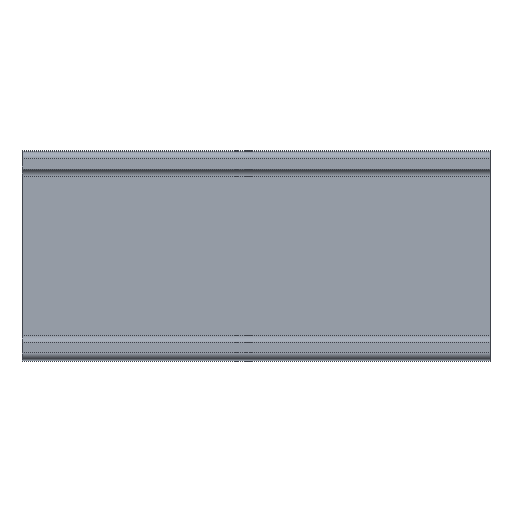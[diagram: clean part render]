
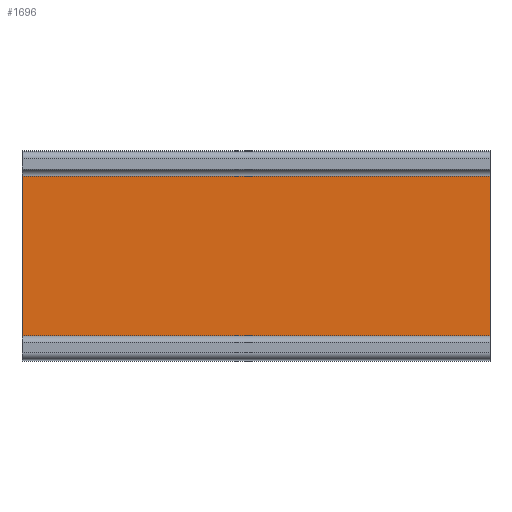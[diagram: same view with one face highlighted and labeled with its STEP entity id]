
A CAD part, top view. The second image highlights one B-rep face of the part: STEP entity #1696.
In plain terms, the highlighted planar face has unit normal (0, 0, 1).
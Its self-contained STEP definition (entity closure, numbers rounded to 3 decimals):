
#18 = LINE ( 'NONE', #530, #1106 ) ;
#67 = EDGE_LOOP ( 'NONE', ( #801, #375, #1614, #206 ) ) ;
#81 = VECTOR ( 'NONE', #1876, 1000. ) ;
#112 = LINE ( 'NONE', #115, #1240 ) ;
#115 = CARTESIAN_POINT ( 'NONE',  ( 59.184, 71.898, 18.5 ) ) ;
#206 = ORIENTED_EDGE ( 'NONE', *, *, #512, .T. ) ;
#241 = VERTEX_POINT ( 'NONE', #1648 ) ;
#254 = VERTEX_POINT ( 'NONE', #883 ) ;
#375 = ORIENTED_EDGE ( 'NONE', *, *, #866, .F. ) ;
#408 = VERTEX_POINT ( 'NONE', #693 ) ;
#434 = DIRECTION ( 'NONE',  ( 0., 0., -1. ) ) ;
#512 = EDGE_CURVE ( 'NONE', #1601, #254, #112, .T. ) ;
#518 = FACE_OUTER_BOUND ( 'NONE', #67, .T. ) ;
#530 = CARTESIAN_POINT ( 'NONE',  ( 59.184, 37.898, 18.5 ) ) ;
#534 = DIRECTION ( 'NONE',  ( 0., -1., 0. ) ) ;
#693 = CARTESIAN_POINT ( 'NONE',  ( 59.184, 37.898, 18.5 ) ) ;
#795 = VECTOR ( 'NONE', #1533, 1000. ) ;
#801 = ORIENTED_EDGE ( 'NONE', *, *, #1896, .T. ) ;
#866 = EDGE_CURVE ( 'NONE', #408, #241, #1066, .T. ) ;
#870 = CARTESIAN_POINT ( 'NONE',  ( 59.184, 71.898, 18.5 ) ) ;
#883 = CARTESIAN_POINT ( 'NONE',  ( -40.816, 71.898, 18.5 ) ) ;
#1066 = LINE ( 'NONE', #1230, #795 ) ;
#1078 = LINE ( 'NONE', #1397, #81 ) ;
#1106 = VECTOR ( 'NONE', #534, 1000. ) ;
#1197 = DIRECTION ( 'NONE',  ( -1., 0., 0. ) ) ;
#1230 = CARTESIAN_POINT ( 'NONE',  ( 59.184, 37.898, 18.5 ) ) ;
#1240 = VECTOR ( 'NONE', #1197, 1000. ) ;
#1351 = EDGE_CURVE ( 'NONE', #1601, #408, #18, .T. ) ;
#1397 = CARTESIAN_POINT ( 'NONE',  ( -40.816, 37.898, 18.5 ) ) ;
#1466 = CARTESIAN_POINT ( 'NONE',  ( 59.184, 37.898, 18.5 ) ) ;
#1476 = DIRECTION ( 'NONE',  ( -1., 0., 0. ) ) ;
#1533 = DIRECTION ( 'NONE',  ( -1., 0., 0. ) ) ;
#1601 = VERTEX_POINT ( 'NONE', #870 ) ;
#1614 = ORIENTED_EDGE ( 'NONE', *, *, #1351, .F. ) ;
#1642 = PLANE ( 'NONE',  #1993 ) ;
#1648 = CARTESIAN_POINT ( 'NONE',  ( -40.816, 37.898, 18.5 ) ) ;
#1696 = ADVANCED_FACE ( 'NONE', ( #518 ), #1642, .F. ) ;
#1876 = DIRECTION ( 'NONE',  ( 0., -1., 0. ) ) ;
#1896 = EDGE_CURVE ( 'NONE', #254, #241, #1078, .T. ) ;
#1993 = AXIS2_PLACEMENT_3D ( 'NONE', #1466, #434, #1476 ) ;
